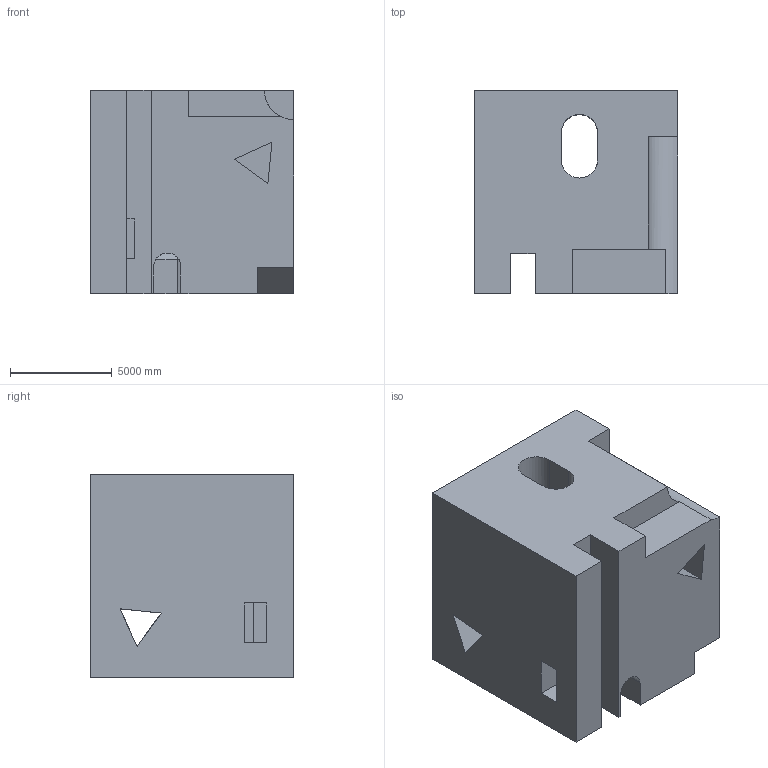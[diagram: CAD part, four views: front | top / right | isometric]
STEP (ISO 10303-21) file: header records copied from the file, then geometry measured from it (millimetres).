
FILE_DESCRIPTION (( 'STEP AP203' ), '1' );
FILE_NAME ('1930.STEP', '2022-08-26T13:40:00', ( 'user' ), ( '' ), 'SwSTEP 2.0', 'SolidWorks 2021', '' );
FILE_SCHEMA (( 'CONFIG_CONTROL_DESIGN' ));
Length unit declared in the file: centimetre
Products named in the file (1): 1930
Bounding box: 10000 x 10000 x 10000 mm (x, y, z)
Volume: 828868727797.9 mm3; surface area: 865734136.3 mm2
Topology: 1 solids, 1 shells, 50 faces, 150 edges, 100 vertices
Faces by surface type: plane 46, cylinder 4
Entity records: 1809 total; most frequent: CARTESIAN_POINT 386, ORIENTED_EDGE 300, DIRECTION 250, EDGE_CURVE 150, VECTOR 130, LINE 130, VERTEX_POINT 100, AXIS2_PLACEMENT_3D 60
